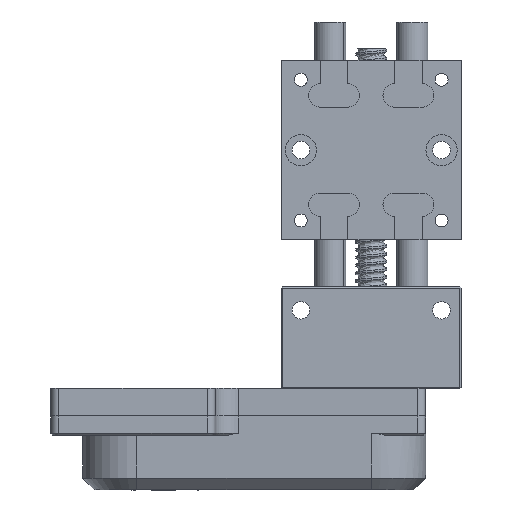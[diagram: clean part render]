
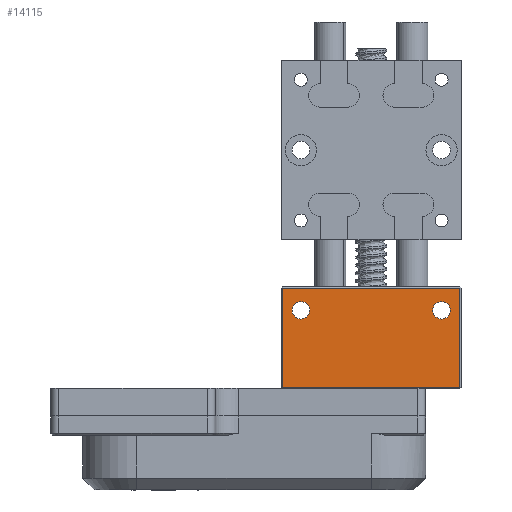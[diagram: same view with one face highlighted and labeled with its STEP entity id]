
A CAD part, front view. The second image highlights one B-rep face of the part: STEP entity #14115.
In plain terms, the highlighted planar face has unit normal (0, -1, 0).
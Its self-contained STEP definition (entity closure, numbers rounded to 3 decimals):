
#99 = ORIENTED_EDGE ( 'NONE', *, *, #39985, .T. ) ;
#677 = AXIS2_PLACEMENT_3D ( 'NONE', #15759, #50368, #20731 ) ;
#1184 = CARTESIAN_POINT ( 'NONE',  ( -22.7, 0., 25.7 ) ) ;
#2048 = EDGE_CURVE ( 'NONE', #62923, #56816, #51878, .T. ) ;
#2782 = PLANE ( 'NONE',  #47582 ) ;
#3709 = EDGE_CURVE ( 'NONE', #25243, #41154, #61072, .T. ) ;
#3856 = ORIENTED_EDGE ( 'NONE', *, *, #14320, .T. ) ;
#6638 = AXIS2_PLACEMENT_3D ( 'NONE', #43742, #14188, #48740 ) ;
#7754 = DIRECTION ( 'NONE',  ( 0., 0., 1. ) ) ;
#7935 = EDGE_LOOP ( 'NONE', ( #9116, #99, #17528, #13287 ) ) ;
#8353 = VECTOR ( 'NONE', #28484, 1000. ) ;
#8672 = EDGE_LOOP ( 'NONE', ( #20184, #11112 ) ) ;
#9116 = ORIENTED_EDGE ( 'NONE', *, *, #2048, .T. ) ;
#9988 = CIRCLE ( 'NONE', #677, 2.25 ) ;
#11112 = ORIENTED_EDGE ( 'NONE', *, *, #21006, .T. ) ;
#11823 = VECTOR ( 'NONE', #26659, 1000. ) ;
#12463 = VECTOR ( 'NONE', #28817, 1000. ) ;
#13030 = LINE ( 'NONE', #25118, #40817 ) ;
#13287 = ORIENTED_EDGE ( 'NONE', *, *, #22679, .T. ) ;
#14115 = ADVANCED_FACE ( 'NONE', ( #36012, #15957, #60853 ), #2782, .F. ) ;
#14188 = DIRECTION ( 'NONE',  ( 0., 1., 0. ) ) ;
#14320 = EDGE_CURVE ( 'NONE', #41154, #25243, #15152, .T. ) ;
#15152 = CIRCLE ( 'NONE', #6638, 2.25 ) ;
#15759 = CARTESIAN_POINT ( 'NONE',  ( 18., 0., 20. ) ) ;
#15957 = FACE_BOUND ( 'NONE', #42155, .T. ) ;
#17528 = ORIENTED_EDGE ( 'NONE', *, *, #45131, .T. ) ;
#18075 = DIRECTION ( 'NONE',  ( 0., 1., 0. ) ) ;
#20184 = ORIENTED_EDGE ( 'NONE', *, *, #58915, .T. ) ;
#20731 = DIRECTION ( 'NONE',  ( -1., 0., 0. ) ) ;
#21006 = EDGE_CURVE ( 'NONE', #25609, #51929, #9988, .T. ) ;
#21675 = CARTESIAN_POINT ( 'NONE',  ( 22.7, 0., 26. ) ) ;
#22679 = EDGE_CURVE ( 'NONE', #52256, #62923, #13030, .T. ) ;
#23206 = CIRCLE ( 'NONE', #24403, 2.25 ) ;
#24403 = AXIS2_PLACEMENT_3D ( 'NONE', #47696, #18075, #52672 ) ;
#25118 = CARTESIAN_POINT ( 'NONE',  ( -23., 0., 25.7 ) ) ;
#25243 = VERTEX_POINT ( 'NONE', #40752 ) ;
#25609 = VERTEX_POINT ( 'NONE', #29670 ) ;
#26659 = DIRECTION ( 'NONE',  ( 0., 0., 1. ) ) ;
#27361 = CARTESIAN_POINT ( 'NONE',  ( -23., 0., 26. ) ) ;
#27805 = CARTESIAN_POINT ( 'NONE',  ( 15.75, 0., 20. ) ) ;
#28484 = DIRECTION ( 'NONE',  ( 1., 0., 0. ) ) ;
#28606 = CARTESIAN_POINT ( 'NONE',  ( -22.7, 0., 26. ) ) ;
#28817 = DIRECTION ( 'NONE',  ( 0., 0., -1. ) ) ;
#29505 = CARTESIAN_POINT ( 'NONE',  ( -22.7, 0., 0.3 ) ) ;
#29670 = CARTESIAN_POINT ( 'NONE',  ( 20.25, 0., 20. ) ) ;
#36012 = FACE_OUTER_BOUND ( 'NONE', #7935, .T. ) ;
#38261 = CARTESIAN_POINT ( 'NONE',  ( -15.75, 0., 20. ) ) ;
#38431 = CARTESIAN_POINT ( 'NONE',  ( 23., 0., 0.3 ) ) ;
#39851 = CARTESIAN_POINT ( 'NONE',  ( 22.7, 0., 25.7 ) ) ;
#39985 = EDGE_CURVE ( 'NONE', #56816, #54207, #59417, .T. ) ;
#40316 = DIRECTION ( 'NONE',  ( 0., 1., 0. ) ) ;
#40752 = CARTESIAN_POINT ( 'NONE',  ( -20.25, 0., 20. ) ) ;
#40817 = VECTOR ( 'NONE', #44785, 1000. ) ;
#41154 = VERTEX_POINT ( 'NONE', #38261 ) ;
#42075 = CARTESIAN_POINT ( 'NONE',  ( -18., 0., 20. ) ) ;
#42155 = EDGE_LOOP ( 'NONE', ( #45299, #3856 ) ) ;
#42731 = DIRECTION ( 'NONE',  ( 1., 0., 0. ) ) ;
#43742 = CARTESIAN_POINT ( 'NONE',  ( -18., 0., 20. ) ) ;
#44785 = DIRECTION ( 'NONE',  ( -1., 0., 0. ) ) ;
#45131 = EDGE_CURVE ( 'NONE', #54207, #52256, #51250, .T. ) ;
#45299 = ORIENTED_EDGE ( 'NONE', *, *, #3709, .T. ) ;
#46265 = CARTESIAN_POINT ( 'NONE',  ( 22.7, 0., 0.3 ) ) ;
#47582 = AXIS2_PLACEMENT_3D ( 'NONE', #27361, #52006, #7754 ) ;
#47696 = CARTESIAN_POINT ( 'NONE',  ( 18., 0., 20. ) ) ;
#48740 = DIRECTION ( 'NONE',  ( 1., 0., 0. ) ) ;
#50368 = DIRECTION ( 'NONE',  ( 0., 1., 0. ) ) ;
#51250 = LINE ( 'NONE', #21675, #11823 ) ;
#51314 = AXIS2_PLACEMENT_3D ( 'NONE', #42075, #40316, #42731 ) ;
#51878 = LINE ( 'NONE', #28606, #12463 ) ;
#51929 = VERTEX_POINT ( 'NONE', #27805 ) ;
#52006 = DIRECTION ( 'NONE',  ( 0., 1., 0. ) ) ;
#52256 = VERTEX_POINT ( 'NONE', #39851 ) ;
#52672 = DIRECTION ( 'NONE',  ( -1., 0., 0. ) ) ;
#54207 = VERTEX_POINT ( 'NONE', #46265 ) ;
#56816 = VERTEX_POINT ( 'NONE', #29505 ) ;
#58915 = EDGE_CURVE ( 'NONE', #51929, #25609, #23206, .T. ) ;
#59417 = LINE ( 'NONE', #38431, #8353 ) ;
#60853 = FACE_BOUND ( 'NONE', #8672, .T. ) ;
#61072 = CIRCLE ( 'NONE', #51314, 2.25 ) ;
#62923 = VERTEX_POINT ( 'NONE', #1184 ) ;
